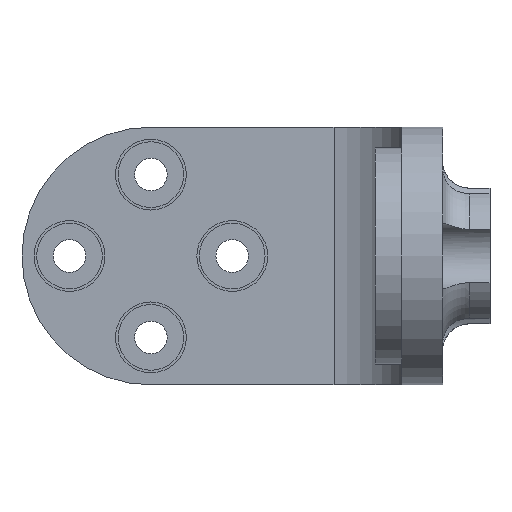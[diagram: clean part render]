
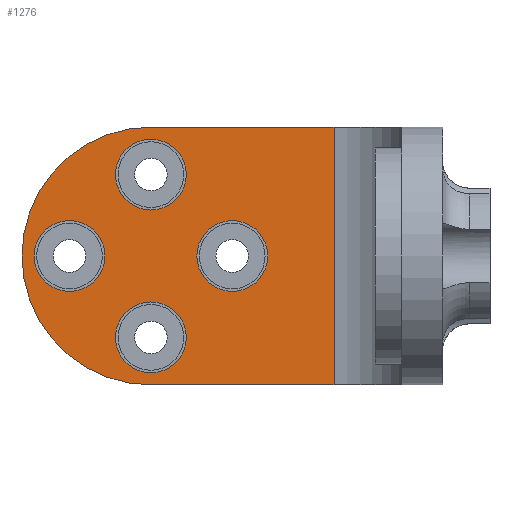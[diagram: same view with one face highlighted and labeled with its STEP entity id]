
A CAD part, left-side view. The second image highlights one B-rep face of the part: STEP entity #1276.
In plain terms, the highlighted planar face has unit normal (-1, 0, 0).
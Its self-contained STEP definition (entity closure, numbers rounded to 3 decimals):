
#741 = VERTEX_POINT('',#742);
#742 = CARTESIAN_POINT('',(34.,0.,9.5));
#748 = EDGE_CURVE('',#741,#749,#751,.T.);
#749 = VERTEX_POINT('',#750);
#750 = CARTESIAN_POINT('',(34.,-13.5,9.5));
#751 = LINE('',#752,#753);
#752 = CARTESIAN_POINT('',(34.,0.,9.5));
#753 = VECTOR('',#754,1.);
#754 = DIRECTION('',(0.,-1.,0.));
#815 = VERTEX_POINT('',#816);
#816 = CARTESIAN_POINT('',(34.,-13.5,-9.5));
#822 = EDGE_CURVE('',#815,#823,#825,.T.);
#823 = VERTEX_POINT('',#824);
#824 = CARTESIAN_POINT('',(34.,0.,-9.5));
#825 = LINE('',#826,#827);
#826 = CARTESIAN_POINT('',(34.,-13.5,-9.5));
#827 = VECTOR('',#828,1.);
#828 = DIRECTION('',(0.,1.,0.));
#1276 = ADVANCED_FACE('',(#1277,#1294,#1305,#1316,#1327),#1338,.F.);
#1277 = FACE_BOUND('',#1278,.F.);
#1278 = EDGE_LOOP('',(#1279,#1280,#1287,#1288));
#1279 = ORIENTED_EDGE('',*,*,#822,.T.);
#1280 = ORIENTED_EDGE('',*,*,#1281,.T.);
#1281 = EDGE_CURVE('',#823,#741,#1282,.T.);
#1282 = CIRCLE('',#1283,9.5);
#1283 = AXIS2_PLACEMENT_3D('',#1284,#1285,#1286);
#1284 = CARTESIAN_POINT('',(34.,0.,0.));
#1285 = DIRECTION('',(1.,0.,0.));
#1286 = DIRECTION('',(0.,0.,-1.));
#1287 = ORIENTED_EDGE('',*,*,#748,.T.);
#1288 = ORIENTED_EDGE('',*,*,#1289,.T.);
#1289 = EDGE_CURVE('',#749,#815,#1290,.T.);
#1290 = LINE('',#1291,#1292);
#1291 = CARTESIAN_POINT('',(34.,-13.5,9.5));
#1292 = VECTOR('',#1293,1.);
#1293 = DIRECTION('',(0.,0.,-1.));
#1294 = FACE_BOUND('',#1295,.F.);
#1295 = EDGE_LOOP('',(#1296));
#1296 = ORIENTED_EDGE('',*,*,#1297,.F.);
#1297 = EDGE_CURVE('',#1298,#1298,#1300,.T.);
#1298 = VERTEX_POINT('',#1299);
#1299 = CARTESIAN_POINT('',(34.,6.,2.61));
#1300 = CIRCLE('',#1301,2.61);
#1301 = AXIS2_PLACEMENT_3D('',#1302,#1303,#1304);
#1302 = CARTESIAN_POINT('',(34.,6.,0.));
#1303 = DIRECTION('',(1.,0.,0.));
#1304 = DIRECTION('',(-0.,0.,1.));
#1305 = FACE_BOUND('',#1306,.F.);
#1306 = EDGE_LOOP('',(#1307));
#1307 = ORIENTED_EDGE('',*,*,#1308,.F.);
#1308 = EDGE_CURVE('',#1309,#1309,#1311,.T.);
#1309 = VERTEX_POINT('',#1310);
#1310 = CARTESIAN_POINT('',(34.,0.,-3.39));
#1311 = CIRCLE('',#1312,2.61);
#1312 = AXIS2_PLACEMENT_3D('',#1313,#1314,#1315);
#1313 = CARTESIAN_POINT('',(34.,0.,-6.));
#1314 = DIRECTION('',(1.,0.,0.));
#1315 = DIRECTION('',(-0.,0.,1.));
#1316 = FACE_BOUND('',#1317,.F.);
#1317 = EDGE_LOOP('',(#1318));
#1318 = ORIENTED_EDGE('',*,*,#1319,.F.);
#1319 = EDGE_CURVE('',#1320,#1320,#1322,.T.);
#1320 = VERTEX_POINT('',#1321);
#1321 = CARTESIAN_POINT('',(34.,0.,8.61));
#1322 = CIRCLE('',#1323,2.61);
#1323 = AXIS2_PLACEMENT_3D('',#1324,#1325,#1326);
#1324 = CARTESIAN_POINT('',(34.,0.,6.));
#1325 = DIRECTION('',(1.,0.,0.));
#1326 = DIRECTION('',(-0.,0.,1.));
#1327 = FACE_BOUND('',#1328,.F.);
#1328 = EDGE_LOOP('',(#1329));
#1329 = ORIENTED_EDGE('',*,*,#1330,.F.);
#1330 = EDGE_CURVE('',#1331,#1331,#1333,.T.);
#1331 = VERTEX_POINT('',#1332);
#1332 = CARTESIAN_POINT('',(34.,-6.,2.61));
#1333 = CIRCLE('',#1334,2.61);
#1334 = AXIS2_PLACEMENT_3D('',#1335,#1336,#1337);
#1335 = CARTESIAN_POINT('',(34.,-6.,0.));
#1336 = DIRECTION('',(1.,0.,0.));
#1337 = DIRECTION('',(-0.,0.,1.));
#1338 = PLANE('',#1339);
#1339 = AXIS2_PLACEMENT_3D('',#1340,#1341,#1342);
#1340 = CARTESIAN_POINT('',(34.,-3.791,0.));
#1341 = DIRECTION('',(1.,0.,0.));
#1342 = DIRECTION('',(-0.,0.,1.));
